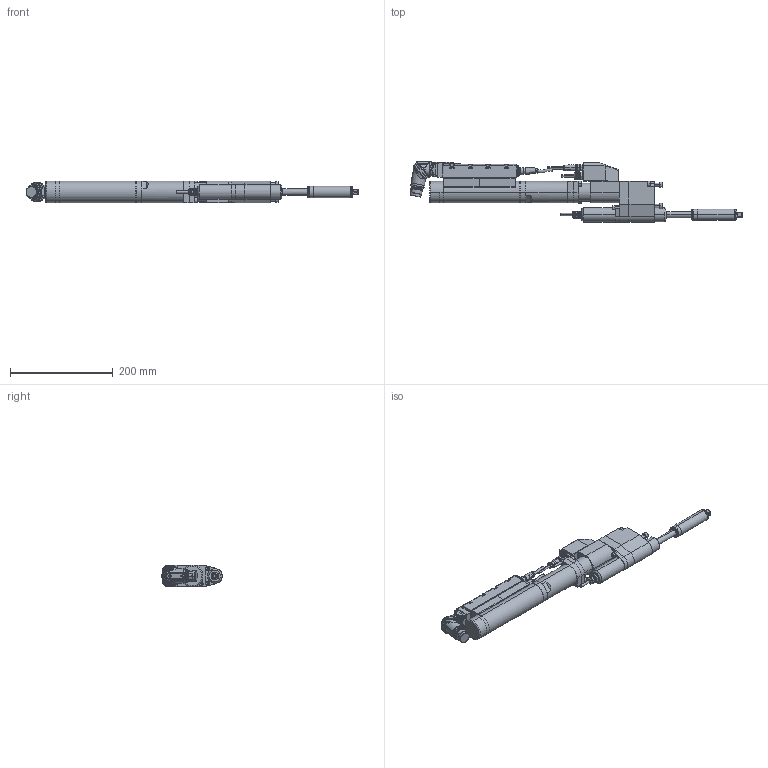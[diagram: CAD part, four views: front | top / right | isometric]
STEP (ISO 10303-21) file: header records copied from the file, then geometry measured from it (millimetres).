
FILE_DESCRIPTION (( 'STEP AP214' ), '1' );
FILE_NAME ('70082572_ESX103DRXWX40AODX150-40.STEP', '2026-04-13T09:48:50', ( '' ), ( '' ), 'SwSTEP 2.0', 'SolidWorks 2020', '' );
FILE_SCHEMA (( 'AUTOMOTIVE_DESIGN' ));
Length unit declared in the file: millimetre
Products named in the file (1): 70082572_ESX103DRXWX40AODX150-40
Bounding box: 645.96 x 118.34 x 42.53 mm (x, y, z)
Volume: 1198337.5 mm3; surface area: 170429.7 mm2
Topology: 13 solids, 13 shells, 3114 faces, 7981 edges, 5071 vertices
Faces by surface type: plane 1231, cylinder 924, cone 506, bspline 310, torus 139, sphere 4
Entity records: 142002 total; most frequent: CARTESIAN_POINT 35350, ORIENTED_EDGE 15878, DIRECTION 14053, EDGE_CURVE 7939, AXIS2_PLACEMENT_3D 5318, VERTEX_POINT 5069, LINE 3417, VECTOR 3417
